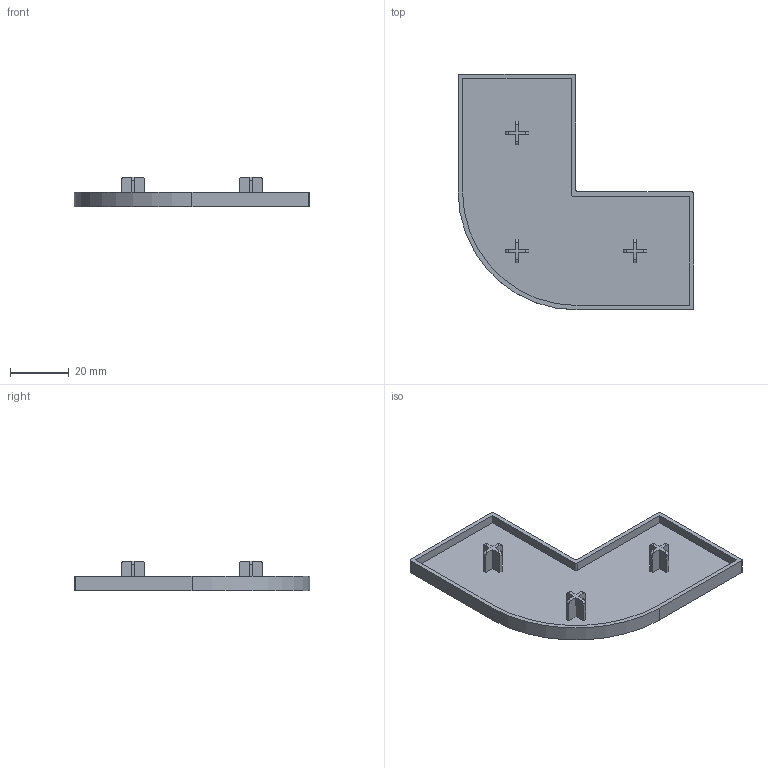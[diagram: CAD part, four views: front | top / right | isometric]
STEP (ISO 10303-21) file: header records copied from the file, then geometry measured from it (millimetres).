
FILE_DESCRIPTION(/* description */ (''),/* implementation_level */ '2;1');
FILE_NAME(/* name */ 'C:\Users\Owner\Documents\硯聰\Inv材料庫-3D新型錄-2019整理\02.AMC-端蓋\8系列\AMC-U8840R.stp',/* time_stamp */ '2019-03-13T09:42:56+08:00',/* author */ ('Owner'),/* organization */ (''),/* preprocessor_version */ 'ST-DEVELOPER v16.1',/* originating_system */ 'Autodesk Inventor 2016',/* authorisation */ '');
FILE_SCHEMA (('AUTOMOTIVE_DESIGN { 1 0 10303 214 3 1 1 }'));
Length unit declared in the file: millimetre
Products named in the file (1): AMC-U8840R
Bounding box: 80 x 80 x 10 mm (x, y, z)
Volume: 10672.7 mm3; surface area: 12052.2 mm2
Topology: 1 solids, 1 shells, 74 faces, 204 edges, 136 vertices
Faces by surface type: plane 54, cylinder 20
Entity records: 2372 total; most frequent: CARTESIAN_POINT 415, ORIENTED_EDGE 408, DIRECTION 394, EDGE_CURVE 204, LINE 164, VECTOR 164, VERTEX_POINT 136, AXIS2_PLACEMENT_3D 115
